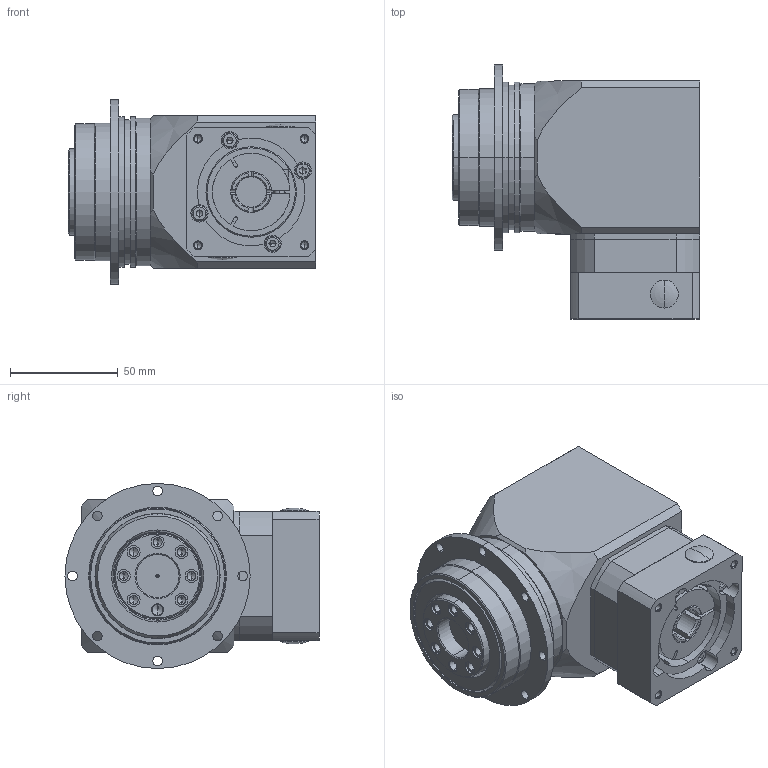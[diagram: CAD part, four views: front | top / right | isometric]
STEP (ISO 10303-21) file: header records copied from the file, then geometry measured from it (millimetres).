
FILE_DESCRIPTION (( 'STEP AP203' ), '1' );
FILE_NAME ('PGYZ064-L1-14-50-70-M4.STEP', '2020-06-12T00:19:29', ( 'ylmfeng' ), ( 'ylmfeng.com' ), 'SwSTEP 2.0', 'SolidWorks 2014', '' );
FILE_SCHEMA (( 'CONFIG_CONTROL_DESIGN' ));
Length unit declared in the file: millimetre
Products named in the file (1): PGYZ064-L1-14-50-70-M4
Bounding box: 115 x 118 x 86 mm (x, y, z)
Volume: 591080.9 mm3; surface area: 112845.9 mm2
Topology: 24 solids, 24 shells, 733 faces, 1767 edges, 1090 vertices
Faces by surface type: plane 292, cylinder 243, cone 128, torus 42, bspline 28
Entity records: 22315 total; most frequent: CARTESIAN_POINT 5153, DIRECTION 3715, ORIENTED_EDGE 3422, EDGE_CURVE 1711, AXIS2_PLACEMENT_3D 1441, VERTEX_POINT 1090, EDGE_LOOP 841, VECTOR 833
